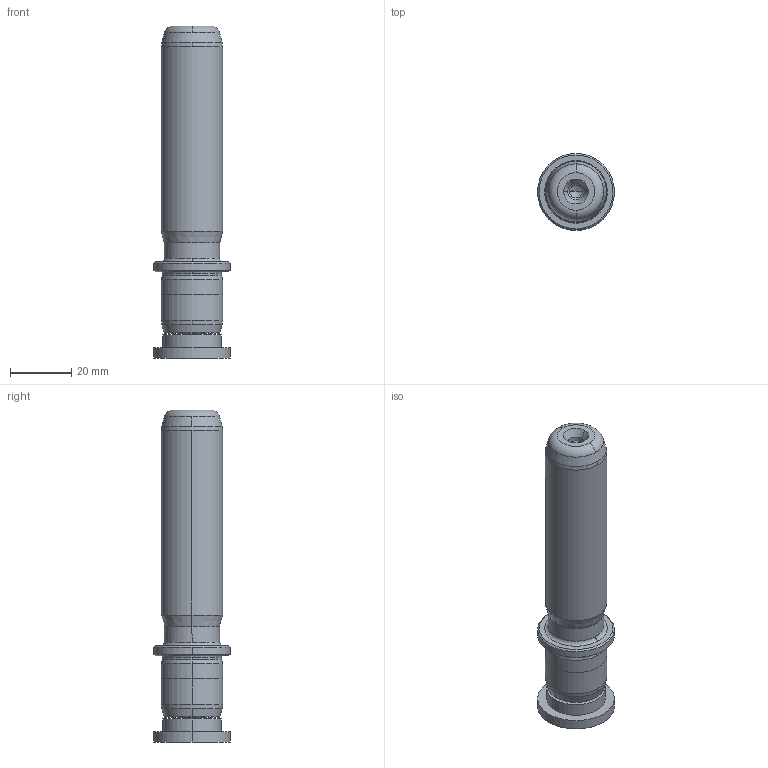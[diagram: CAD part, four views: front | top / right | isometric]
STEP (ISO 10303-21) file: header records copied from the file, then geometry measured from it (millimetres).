
FILE_DESCRIPTION((''),'2;1');
FILE_NAME('P22_020_080.stp','2009-02-02T11:05:06',(''),(''),'Mechanical Desktop 2009','Mechanical Desktop 2009',', , ');
FILE_SCHEMA(('CONFIG_CONTROL_DESIGN'));
Length unit declared in the file: millimetre
Products named in the file (2): Product; blmdl1
Assembly tree (1 placements, depth 2):
  Product
    blmdl1
Bounding box: 25 x 25 x 108 mm (x, y, z)
Volume: 33294.6 mm3; surface area: 9655.9 mm2
Topology: 3 solids, 3 shells, 99 faces, 237 edges, 149 vertices
Faces by surface type: cylinder 32, cone 28, plane 19, bspline 14, torus 6
Entity records: 3579 total; most frequent: CARTESIAN_POINT 1099, DIRECTION 562, ORIENTED_EDGE 466, AXIS2_PLACEMENT_3D 242, EDGE_CURVE 233, CIRCLE 155, VERTEX_POINT 149, EDGE_LOOP 110
